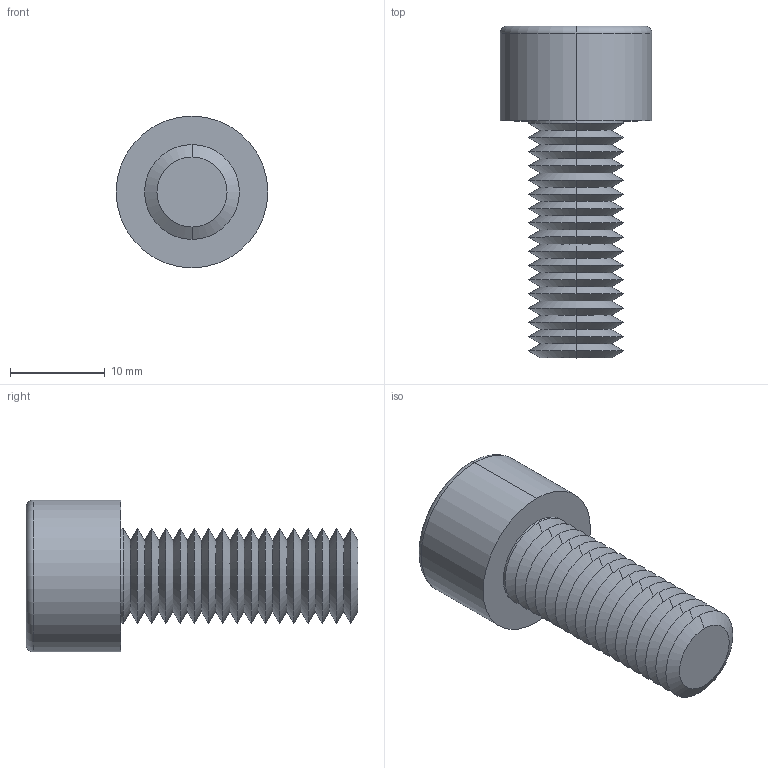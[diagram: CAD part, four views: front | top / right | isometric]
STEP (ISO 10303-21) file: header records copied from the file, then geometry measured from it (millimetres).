
FILE_DESCRIPTION (( 'STEP AP203' ), '1' );
FILE_NAME ('91N.100.0250.step', '2025-05-20T08:55:02', ( '' ), ( '' ), 'SwSTEP 2.0', 'SolidWorks 2019', '' );
FILE_SCHEMA (( 'CONFIG_CONTROL_DESIGN' ));
Length unit declared in the file: millimetre
Products named in the file (1): 91N.100.0250
Bounding box: 16 x 35 x 16 mm (x, y, z)
Volume: 3024 mm3; surface area: 2440.6 mm2
Topology: 1 solids, 1 shells, 96 faces, 191 edges, 97 vertices
Faces by surface type: cone 75, plane 15, cylinder 4, torus 2
Entity records: 2482 total; most frequent: DIRECTION 467, CARTESIAN_POINT 414, ORIENTED_EDGE 378, EDGE_CURVE 189, AXIS2_PLACEMENT_3D 188, EDGE_LOOP 98, VERTEX_POINT 97, ADVANCED_FACE 96
